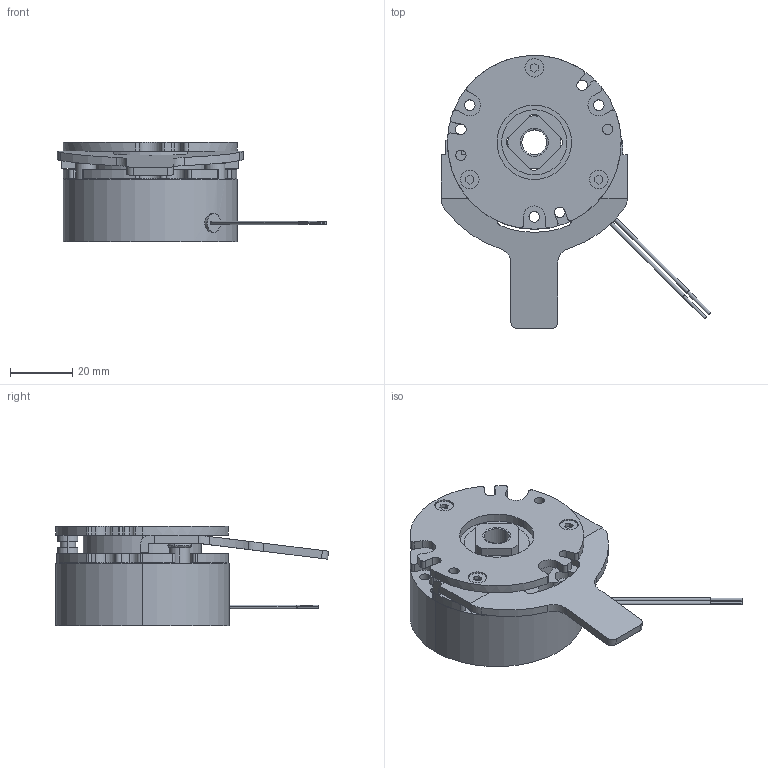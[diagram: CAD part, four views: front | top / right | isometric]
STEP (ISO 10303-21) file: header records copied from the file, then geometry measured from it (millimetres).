
FILE_DESCRIPTION (( 'STEP AP214' ), '1' );
FILE_NAME ('BXW-03-12H-8.STEP', '2018-06-29T01:31:39', ( 'MIKI' ), ( '' ), 'SwSTEP 2.0', 'SolidWorks 2012', '' );
FILE_SCHEMA (( 'AUTOMOTIVE_DESIGN' ));
Length unit declared in the file: millimetre
Products named in the file (1): BXW-03-12H-8
Bounding box: 86.89 x 88 x 31.9 mm (x, y, z)
Volume: 63603 mm3; surface area: 24943.1 mm2
Topology: 3 solids, 3 shells, 347 faces, 924 edges, 598 vertices
Faces by surface type: cylinder 184, plane 139, cone 16, bspline 8
Entity records: 15087 total; most frequent: CARTESIAN_POINT 2306, DIRECTION 1928, ORIENTED_EDGE 1840, EDGE_CURVE 920, AXIS2_PLACEMENT_3D 708, VERTEX_POINT 598, LINE 512, VECTOR 512
